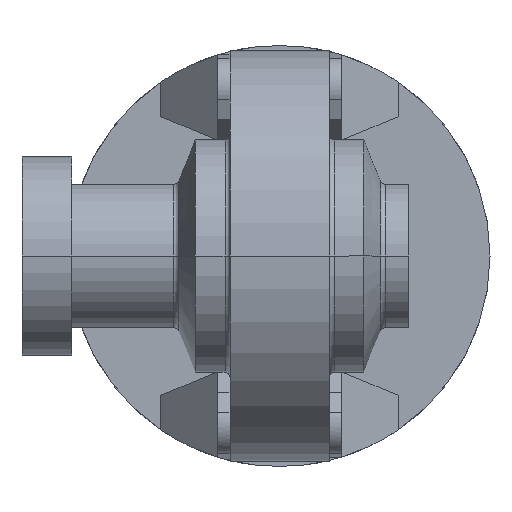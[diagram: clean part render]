
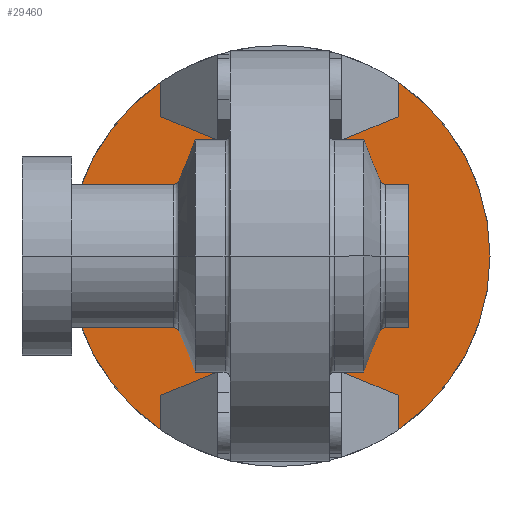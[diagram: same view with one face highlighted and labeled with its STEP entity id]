
A CAD part, front view. The second image highlights one B-rep face of the part: STEP entity #29460.
In plain terms, the highlighted planar face has unit normal (0, -1, 0).
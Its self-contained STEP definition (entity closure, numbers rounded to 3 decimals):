
#15770=CARTESIAN_POINT('',(-129.082,114.21,32.));
#15780=VERTEX_POINT('',#15770);
#15810=CARTESIAN_POINT('',(-129.082,114.21,
0.));
#15820=DIRECTION('',(0.,0.,-1.));
#15830=VECTOR('',#15820,1.);
#15840=LINE('',#15810,#15830);
#15850=CARTESIAN_POINT('',(-129.082,114.21,
35.075));
#15860=VERTEX_POINT('',#15850);
#15870=EDGE_CURVE('',#15860,#15780,#15840,.T.);
#16700=CARTESIAN_POINT('',(-81.082,114.21,32.));
#16710=VERTEX_POINT('',#16700);
#16740=CARTESIAN_POINT('',(-105.082,114.21,
0.));
#16750=DIRECTION('',(0.,-1.,0.));
#16760=DIRECTION('',(0.,0.,1.));
#16770=AXIS2_PLACEMENT_3D('',#16740,#16750,#16760);
#16780=CIRCLE('',#16770,40.);
#16790=EDGE_CURVE('',#16710,#15780,#16780,.T.);
#22070=CARTESIAN_POINT('',(-81.082,114.21,-32.));
#22080=VERTEX_POINT('',#22070);
#22110=CARTESIAN_POINT('',(-81.082,114.21,
0.));
#22120=DIRECTION('',(0.,0.,1.));
#22130=VECTOR('',#22120,1.);
#22140=LINE('',#22110,#22130);
#22150=CARTESIAN_POINT('',(-81.082,114.21,
-35.075));
#22160=VERTEX_POINT('',#22150);
#22170=EDGE_CURVE('',#22160,#22080,#22140,.T.);
#22760=CARTESIAN_POINT('',(-129.082,114.21,-32.));
#22770=VERTEX_POINT('',#22760);
#22800=CARTESIAN_POINT('',(-105.082,114.21,
0.));
#22810=DIRECTION('',(0.,-1.,0.));
#22820=DIRECTION('',(0.,0.,-1.));
#22830=AXIS2_PLACEMENT_3D('',#22800,#22810,#22820);
#22840=CIRCLE('',#22830,40.);
#22850=EDGE_CURVE('',#22770,#22080,#22840,.T.);
#24450=CARTESIAN_POINT('',(-105.082,114.21,
0.));
#24460=DIRECTION('',(0.,-1.,0.));
#24470=DIRECTION('',(0.,0.,1.));
#24480=AXIS2_PLACEMENT_3D('',#24450,#24460,#24470);
#24490=CIRCLE('',#24480,42.5);
#24500=CARTESIAN_POINT('',(-129.082,114.21,
-35.075));
#24510=VERTEX_POINT('',#24500);
#24520=EDGE_CURVE('',#15860,#24510,#24490,.T.);
#29030=CARTESIAN_POINT('',(-105.082,114.21,
0.));
#29040=DIRECTION('',(0.,-1.,0.));
#29050=DIRECTION('',(0.,0.,1.));
#29060=AXIS2_PLACEMENT_3D('',#29030,#29040,#29050);
#29070=PLANE('',#29060);
#29080=ORIENTED_EDGE('',*,*,#22170,.F.);
#29090=ORIENTED_EDGE('',*,*,#22850,.T.);
#29100=CARTESIAN_POINT('',(-129.082,114.21,
0.));
#29110=DIRECTION('',(0.,0.,-1.));
#29120=VECTOR('',#29110,1.);
#29130=LINE('',#29100,#29120);
#29140=EDGE_CURVE('',#22770,#24510,#29130,.T.);
#29150=ORIENTED_EDGE('',*,*,#29140,.F.);
#29160=ORIENTED_EDGE('',*,*,#24520,.T.);
#29170=ORIENTED_EDGE('',*,*,#15870,.F.);
#29180=ORIENTED_EDGE('',*,*,#16790,.T.);
#29190=CARTESIAN_POINT('',(-81.082,114.21,
0.));
#29200=DIRECTION('',(0.,0.,1.));
#29210=VECTOR('',#29200,1.);
#29220=LINE('',#29190,#29210);
#29230=CARTESIAN_POINT('',(-81.082,114.21,
35.075));
#29240=VERTEX_POINT('',#29230);
#29250=EDGE_CURVE('',#16710,#29240,#29220,.T.);
#29260=ORIENTED_EDGE('',*,*,#29250,.F.);
#29270=EDGE_CURVE('',#22160,#29240,#24490,.T.);
#29280=ORIENTED_EDGE('',*,*,#29270,.T.);
#29290=EDGE_LOOP('',(#29280,#29260,#29180,#29170,#29160,#29150,#29090,
#29080));
#29300=FACE_OUTER_BOUND('',#29290,.T.);
#29310=CARTESIAN_POINT('',(-105.082,114.21,
0.));
#29320=DIRECTION('',(0.,-1.,0.));
#29330=DIRECTION('',(1.,0.,0.));
#29340=AXIS2_PLACEMENT_3D('',#29310,#29320,#29330);
#29350=CIRCLE('',#29340,10.);
#29360=CARTESIAN_POINT('',(-115.082,114.21,
0.));
#29370=VERTEX_POINT('',#29360);
#29380=CARTESIAN_POINT('',(-95.082,114.21,
0.));
#29390=VERTEX_POINT('',#29380);
#29400=EDGE_CURVE('',#29370,#29390,#29350,.T.);
#29410=ORIENTED_EDGE('',*,*,#29400,.F.);
#29420=EDGE_CURVE('',#29390,#29370,#29350,.T.);
#29430=ORIENTED_EDGE('',*,*,#29420,.F.);
#29440=EDGE_LOOP('',(#29430,#29410));
#29450=FACE_BOUND('',#29440,.T.);
#29460=ADVANCED_FACE('',(#29300,#29450),#29070,.T.);
